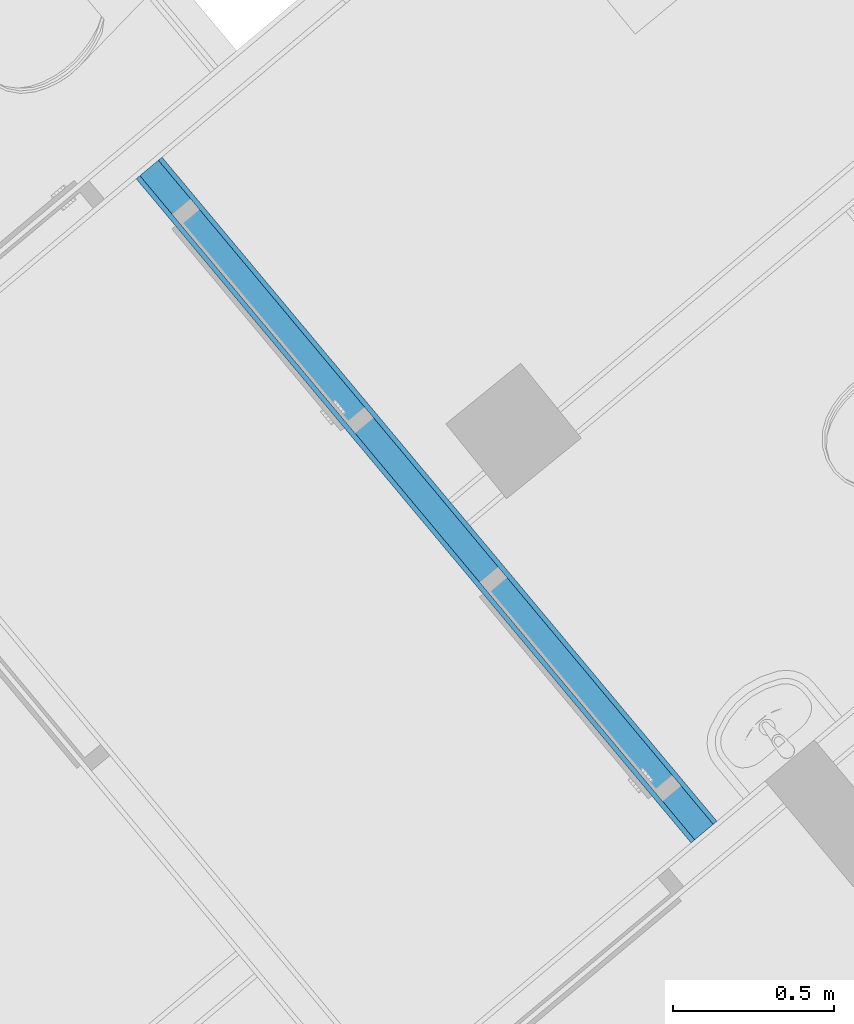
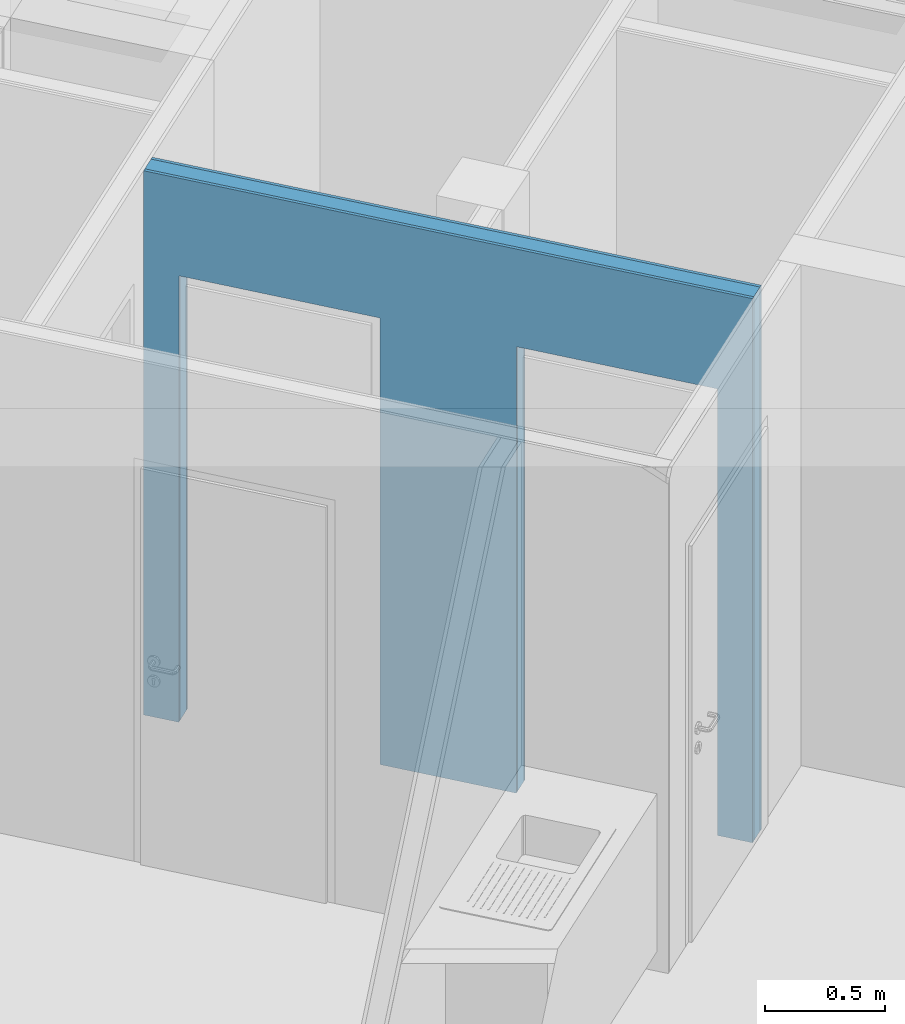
# One storey, part 8 of 50: 3 building element parts, 2 openings, 1 element without a shape of its own.
"""IFC4 building model written with IfcOpenShell, lengths in metres."""

import ifcopenshell
import ifcopenshell.guid

model = None  # the IFC model being written
_history = None  # IfcOwnerHistory: only IFC2X3 demands one
_inside = {}  # id of a spatial element -> (the spatial element, [elements in it])
_under = {}  # id of a project, library or spatial element -> (it, [spatial elements below it])
_declared = {}  # id of a project -> (the project, [libraries it declares])
_typed = {}  # id of a type object -> (the type object, [elements of that type])
_made_of = {}  # id of a material, layer set ... -> (it, [elements and type objects made of it])


def new_model(schema):
    """Start an empty IFC model of exactly this schema.

    Asked for "IFC4X3", IfcOpenShell would pick the latest addendum, in which some entities
    have other attributes; the version numbers below select the first issue.
    IFC2X3 requires an IfcOwnerHistory on every rooted entity: one is made here for all.
    """
    global model, _history
    if schema == "IFC4X3":
        model = ifcopenshell.file(schema_version=(4, 3, 0, 0))
    else:
        model = ifcopenshell.file(schema=schema)
    _inside.clear()
    _under.clear()
    _declared.clear()
    _typed.clear()
    _made_of.clear()
    _history = None
    if model.schema == "IFC2X3":
        org = make("IfcOrganization", Name="unknown")
        user = make(
            "IfcPersonAndOrganization",
            ThePerson=make("IfcPerson", FamilyName="unknown"),
            TheOrganization=org,
        )
        app = make(
            "IfcApplication",
            ApplicationDeveloper=org,
            Version="unknown",
            ApplicationFullName="unknown",
            ApplicationIdentifier="unknown",
        )
        _history = make(
            "IfcOwnerHistory",
            OwningUser=user,
            OwningApplication=app,
            ChangeAction="ADDED",
            CreationDate=0,
        )
    return model


def make(cls, **values):
    """One entity of the class cls with the attributes given. An attribute that is None is left unset."""
    return model.create_entity(
        cls, **{name: value for name, value in values.items() if value is not None}
    )


def entity(cls, *values):
    """Any entity or typed value of the class cls, its attributes in the order of the schema. None: left unset."""
    e = model.create_entity(cls)
    for i, value in enumerate(values):
        if value is not None:
            e[i] = value
    return e


def rooted(cls, **values):
    """An entity with a GlobalId (a new one), such as an element, a storey or a relation."""
    return make(cls, GlobalId=ifcopenshell.guid.new(), OwnerHistory=_history, **values)


def si_unit(unit_type, name, prefix=None):
    """IfcSIUnit, for example si_unit("LENGTHUNIT", "METRE", prefix="MILLI")."""
    return make("IfcSIUnit", UnitType=unit_type, Prefix=prefix, Name=name)


def converted_unit(unit_type, name, factor, base, dimensions=None, offset=None):
    """IfcConversionBasedUnit, such as the inch: factor (a typed value) times the base unit."""
    return make(
        "IfcConversionBasedUnit"
        if offset is None
        else "IfcConversionBasedUnitWithOffset",
        ConversionOffset=offset,
        Dimensions=None
        if dimensions is None
        else entity("IfcDimensionalExponents", *dimensions),
        UnitType=unit_type,
        Name=name,
        ConversionFactor=make(
            "IfcMeasureWithUnit", ValueComponent=factor, UnitComponent=base
        ),
    )


def derived_unit(unit_type, elements):
    """IfcDerivedUnit: a product of units, each with its exponent."""
    return make(
        "IfcDerivedUnit",
        Elements=[
            make("IfcDerivedUnitElement", Unit=unit, Exponent=power)
            for unit, power in elements
        ],
        UnitType=unit_type,
    )


def assignment(units):
    """IfcUnitAssignment: the units of a project."""
    return None if units is None else make("IfcUnitAssignment", Units=units)


def point(xyz):
    """IfcCartesianPoint."""
    return None if xyz is None else make("IfcCartesianPoint", Coordinates=xyz)


def direction(xyz):
    """IfcDirection."""
    return None if xyz is None else make("IfcDirection", DirectionRatios=xyz)


def frame(location, z_axis=None, x_axis=None):
    """IfcAxis2Placement3D, a coordinate frame: its origin and axes. An axis left out is left unset."""
    return make(
        "IfcAxis2Placement3D",
        Location=point(location),
        Axis=direction(z_axis),
        RefDirection=direction(x_axis),
    )


def origin_with_axes():
    """The frame at (0, 0, 0) with the z axis (0, 0, 1) and the x axis (1, 0, 0) written out."""
    return frame((0.0, 0.0, 0.0), z_axis=(0.0, 0.0, 1.0), x_axis=(1.0, 0.0, 0.0))


def place(relative_to, where):
    """IfcLocalPlacement: puts the frame where relative to a parent placement (None: the world)."""
    return make(
        "IfcLocalPlacement", PlacementRelTo=relative_to, RelativePlacement=where
    )


def context(
    kind, dimensions, precision=None, world=None, true_north=None, identifier=None
):
    """IfcGeometricRepresentationContext, for example the 3D "Model" context."""
    return make(
        "IfcGeometricRepresentationContext",
        ContextIdentifier=identifier,
        ContextType=kind,
        CoordinateSpaceDimension=dimensions,
        Precision=precision,
        WorldCoordinateSystem=world,
        TrueNorth=true_north,
    )


def subcontext(parent, identifier, kind, view, scale=None):
    """IfcGeometricRepresentationSubContext, for example "Body" below "Model"."""
    return make(
        "IfcGeometricRepresentationSubContext",
        ContextIdentifier=identifier,
        ContextType=kind,
        ParentContext=parent,
        TargetScale=scale,
        TargetView=view,
    )


def project(units=None, contexts=None):
    """IfcProject with its units and contexts."""
    return rooted(
        "IfcProject",
        Name="project",
        RepresentationContexts=contexts,
        UnitsInContext=assignment(units),
    )


def spatial(cls, under=None, at=None, **own):
    """A site, building, storey or space (cls), placed at a placement, below another one or the project."""
    s = rooted(cls, ObjectPlacement=at, **own)
    if under is not None:
        _under.setdefault(under.id(), (under, []))[1].append(s)
    return s


def point_list(points):
    """IfcCartesianPointList2D or 3D."""
    cls = (
        "IfcCartesianPointList2D" if len(points[0]) == 2 else "IfcCartesianPointList3D"
    )
    return make(cls, CoordList=points)


def polygons(points, faces, closed=None, point_numbers=None):
    """IfcPolygonalFaceSet: a face is its outer loop, then its inner loops; points numbered from 1."""
    made = []
    for loops in faces:
        if len(loops) == 1:
            made.append(make("IfcIndexedPolygonalFace", CoordIndex=loops[0]))
        else:
            made.append(
                make(
                    "IfcIndexedPolygonalFaceWithVoids",
                    CoordIndex=loops[0],
                    InnerCoordIndices=loops[1:],
                )
            )
    return make(
        "IfcPolygonalFaceSet",
        Coordinates=point_list(points),
        Closed=closed,
        Faces=made,
        PnIndex=point_numbers,
    )


def shape(context_of_items, identifier, shape_type, items):
    """IfcShapeRepresentation: the items that make up one representation, for example the "Body"."""
    return make(
        "IfcShapeRepresentation",
        ContextOfItems=context_of_items,
        RepresentationIdentifier=identifier,
        RepresentationType=shape_type,
        Items=items,
    )


def material(Name=None, Category=None):
    """IfcMaterial."""
    return make("IfcMaterial", Name=Name, Category=Category)


def made_of(thing, what):
    """Note that an element or type object is made of a material, layer set ...; save() writes the relation."""
    if what is not None:
        _made_of.setdefault(what.id(), (what, []))[1].append(thing)
    return thing


def type_object(cls, material=None, **own):
    """A type object (cls), such as IfcWallType, which elements share."""
    return made_of(rooted(cls, **own), material)


def element(
    cls,
    number,
    at=None,
    inside=None,
    cuts=None,
    type_object=None,
    material=None,
    context=None,
    identifier="Body",
    shape_type=None,
    held_by="IfcProductDefinitionShape",
    body=None,
    shapes=None,
    **own,
):
    """One element of the class cls, such as IfcWall. Its Tag is "e" and its number.

    at: its placement. inside: the storey or other place that contains it. cuts: it is an
    opening in that element (IfcRelVoidsElement). A single representation is given by context,
    identifier, shape_type and body (its items); several are given by shapes. held_by: the class
    of the entity that holds the representations. save() writes the other relations.
    """
    e = rooted(cls, Tag="e%d" % number, ObjectPlacement=at, **own)
    if body is not None:
        shapes = [shape(context, identifier, shape_type, body)]
    if shapes is not None:
        e.Representation = make(held_by, Representations=shapes)
    if inside is not None:
        _inside.setdefault(inside.id(), (inside, []))[1].append(e)
    if cuts is not None:
        rooted(
            "IfcRelVoidsElement", RelatingBuildingElement=cuts, RelatedOpeningElement=e
        )
    if type_object is not None:
        _typed.setdefault(type_object.id(), (type_object, []))[1].append(e)
    return made_of(e, material)


def aggregate(whole, parts):
    """IfcRelAggregates: a whole, such as a stair, and the parts it consists of."""
    return rooted("IfcRelAggregates", RelatingObject=whole, RelatedObjects=parts)


def save(model, path):
    """Write the relations noted so far, then the file.

    IfcRelAggregates (storeys below a building ...), IfcRelContainedInSpatialStructure (elements
    in a storey), IfcRelDefinesByType, IfcRelAssociatesMaterial and IfcRelDeclares: one each for
    every whole, place, type object, material and project.
    """
    for whole, parts in _under.values():
        aggregate(whole, parts)
    for where, things in _inside.values():
        rooted(
            "IfcRelContainedInSpatialStructure",
            RelatedElements=things,
            RelatingStructure=where,
        )
    for kind, things in _typed.values():
        rooted("IfcRelDefinesByType", RelatedObjects=things, RelatingType=kind)
    for what, things in _made_of.values():
        rooted("IfcRelAssociatesMaterial", RelatedObjects=things, RelatingMaterial=what)
    for by, libraries in _declared.values():
        rooted("IfcRelDeclares", RelatingContext=by, RelatedDefinitions=libraries)
    model.write(path)


model = new_model("IFC4")

# Units and contexts
model_context = context("Model", 3, precision=1e-05, world=origin_with_axes(), true_north=direction((0.0, 1.0)))
body_context = subcontext(model_context, "Body", "Model", "MODEL_VIEW")
ifc_project = project(units=[si_unit("LENGTHUNIT", "METRE"), si_unit("AREAUNIT", "SQUARE_METRE"), si_unit("VOLUMEUNIT", "CUBIC_METRE"), converted_unit("PLANEANGLEUNIT", "DEGREE", entity("IfcPlaneAngleMeasure", 0.0174532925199), si_unit("PLANEANGLEUNIT", "RADIAN"), dimensions=[0, 0, 0, 0, 0, 0, 0]), converted_unit("TIMEUNIT", "Year", entity("IfcTimeMeasure", 31556926.0), si_unit("TIMEUNIT", "SECOND"), dimensions=[0, 0, 1, 0, 0, 0, 0]), si_unit("MASSUNIT", "GRAM", prefix="KILO"), si_unit("THERMODYNAMICTEMPERATUREUNIT", "DEGREE_CELSIUS"), si_unit("LUMINOUSINTENSITYUNIT", "LUMEN"), si_unit("ENERGYUNIT", "JOULE", prefix="MEGA"), derived_unit("THERMALCONDUCTANCEUNIT", [(si_unit("POWERUNIT", "WATT"), 1), (si_unit("LENGTHUNIT", "METRE"), -1), (si_unit("THERMODYNAMICTEMPERATUREUNIT", "KELVIN"), -1)]), derived_unit("SPECIFICHEATCAPACITYUNIT", [(si_unit("ENERGYUNIT", "JOULE"), 1), (si_unit("MASSUNIT", "GRAM", prefix="KILO"), -1), (si_unit("THERMODYNAMICTEMPERATUREUNIT", "KELVIN"), -1)]), derived_unit("MASSDENSITYUNIT", [(si_unit("MASSUNIT", "GRAM", prefix="KILO"), 1), (si_unit("VOLUMEUNIT", "CUBIC_METRE"), -1)])], contexts=[model_context])

# Site, building, storey
site_placement = place(None, frame((-0.00153261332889, -0.00661245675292, 0.0), z_axis=(0.0, 0.0, 1.0), x_axis=(1.0, 0.0, 0.0)))
site = spatial("IfcSite", under=ifc_project, at=site_placement, Name="Site", CompositionType="ELEMENT")
building_placement = place(site_placement, origin_with_axes())
building = spatial("IfcBuilding", under=site, at=building_placement, Name="Building", CompositionType="ELEMENT")
storey_placement = place(building_placement, frame((0.0, 0.0, 2.74), z_axis=(0.0, 0.0, 1.0), x_axis=(1.0, 0.0, 0.0)))
storey = spatial("IfcBuildingStorey", under=building, at=storey_placement, Name="OG1", CompositionType="ELEMENT", Elevation=2.74)

# Wall, openings, building element parts
wall_type = type_object("IfcWallType", Name="IW LB 01 Leichtbautrennwand einfach 10,5 cm 105", PredefinedType="NOTDEFINED")
wall_placement = place(storey_placement, frame((-1.00185448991, 17.6693449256, 0.0), z_axis=(0.0, 0.0, 1.0), x_axis=(-0.641209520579, 0.767365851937, 0.0)))
wall = element("IfcWall", 1, at=wall_placement, inside=storey, type_object=wall_type, Name="Wand-012", PredefinedType="NOTDEFINED")
opening_1_placement = place(wall_placement, frame((0.600343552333, 0.0, 0.22), z_axis=(0.0, 0.0, 1.0), x_axis=(1.0, 0.0, 0.0)))
element("IfcOpeningElement", 2, at=opening_1_placement, cuts=wall, Name="Tür-016", context=body_context, identifier="Reference", shape_type="Tessellation", body=[
    polygons([(-0.445, -1.32697699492, 2.045), (-0.445, -1.32697699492, -0.22), (0.445, -1.32697699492, -0.22), (0.445, -1.32697699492, 2.045), (-0.445, 1.43197699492, 2.045), (-0.445, 1.43197699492, -0.22), (0.445, 1.43197699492, -0.22), (0.445, 1.43197699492, 2.045)], [[[1, 2, 3, 4]], [[5, 6, 2, 1]], [[6, 7, 3, 2]], [[7, 8, 4, 3]], [[8, 5, 1, 4]], [[7, 6, 5, 8]]], closed=True),
])
opening_2_placement = place(wall_placement, frame((2.09376015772, 0.0, 0.22), z_axis=(0.0, 0.0, 1.0), x_axis=(1.0, 0.0, 0.0)))
element("IfcOpeningElement", 3, at=opening_2_placement, cuts=wall, Name="Tür-016", context=body_context, identifier="Reference", shape_type="Tessellation", body=[
    polygons([(-0.445, -1.32697699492, 2.045), (-0.445, -1.32697699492, -0.22), (0.445, -1.32697699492, -0.22), (0.445, -1.32697699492, 2.045), (-0.445, 1.43197699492, 2.045), (-0.445, 1.43197699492, -0.22), (0.445, 1.43197699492, -0.22), (0.445, 1.43197699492, 2.045)], [[[1, 2, 3, 4]], [[5, 6, 2, 1]], [[6, 7, 3, 2]], [[7, 8, 4, 3]], [[8, 5, 1, 4]], [[7, 6, 5, 8]]], closed=True),
])
ifc_material_1 = material(Name="Gipskarton")
building_element_part_1_placement = place(wall_placement, origin_with_axes())
building_element_part_1 = element("IfcBuildingElementPart", 4, at=building_element_part_1_placement, material=ifc_material_1, Name="Gipskarton", PredefinedType="NOTDEFINED", context=body_context, shape_type="Tessellation", body=[
    polygons([(2.53876015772, 0.09, 2.265), (2.53876015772, 0.09, 0.22), (2.53876015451, 0.09, 0.0), (2.69484355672, 0.09, 0.0), (2.69484355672, 0.09, 2.76), (0.0, 0.09, 2.76), (0.0, 0.09, 0.0), (0.155343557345, 0.09, 0.0), (0.155343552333, 0.09, 0.22), (0.155343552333, 0.09, 2.265), (1.04534355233, 0.09, 2.265), (1.04534355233, 0.09, 0.22), (1.04534353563, 0.09, 0.0), (1.64876015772, 0.09, 0.0), (1.64876015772, 0.09, 0.22), (1.64876015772, 0.09, 2.265), (2.53876015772, 0.105, 2.265), (2.53876015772, 0.105, 0.22), (2.53876015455, 0.105, 0.0), (2.69484355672, 0.105, 0.0), (2.69484355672, 0.105, 2.76), (0.0, 0.105, 2.76), (0.0, 0.105, 0.0), (0.155343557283, 0.105, 0.0), (0.155343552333, 0.105, 0.22), (0.155343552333, 0.105, 2.265), (1.04534355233, 0.105, 2.265), (1.04534355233, 0.105, 0.22), (1.04534353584, 0.105, 0.0), (1.64876015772, 0.105, 0.0), (1.64876015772, 0.105, 0.22), (1.64876015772, 0.105, 2.265)], [[[1, 2, 3, 4, 5, 6, 7, 8, 9, 10, 11, 12, 13, 14, 15, 16]], [[2, 1, 17, 18]], [[2, 18, 19, 3]], [[20, 4, 3, 19]], [[21, 5, 4, 20]], [[21, 22, 6, 5]], [[7, 6, 22, 23]], [[7, 23, 24, 8]], [[9, 8, 24, 25]], [[9, 25, 26, 10]], [[10, 26, 27, 11]], [[11, 27, 28, 12]], [[28, 29, 13, 12]], [[13, 29, 30, 14]], [[31, 15, 14, 30]], [[16, 15, 31, 32]], [[1, 16, 32, 17]], [[32, 31, 30, 29, 28, 27, 26, 25, 24, 23, 22, 21, 20, 19, 18, 17]]], closed=True),
])
ifc_material_2 = material(Name="Mineralwolle weich")
building_element_part_2_placement = place(wall_placement, origin_with_axes())
building_element_part_2 = element("IfcBuildingElementPart", 5, at=building_element_part_2_placement, material=ifc_material_2, Name="Mineralwolle weich", PredefinedType="NOTDEFINED", context=body_context, shape_type="Tessellation", body=[
    polygons([(2.53876015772, 0.015, 2.265), (2.53876015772, 0.015, 0.22), (2.53876015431, 0.015, 0.0), (2.69484355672, 0.015, 0.0), (2.69484355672, 0.015, 2.76), (0.0, 0.015, 2.76), (0.0, 0.015, 0.0), (0.155343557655, 0.015, 0.0), (0.155343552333, 0.015, 0.22), (0.155343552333, 0.015, 2.265), (1.04534355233, 0.015, 2.265), (1.04534355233, 0.015, 0.22), (1.0453435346, 0.015, 0.0), (1.64876015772, 0.015, 0.0), (1.64876015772, 0.015, 0.22), (1.64876015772, 0.015, 2.265), (2.53876015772, 0.09, 2.265), (2.53876015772, 0.09, 0.22), (2.53876015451, 0.09, 0.0), (2.69484355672, 0.09, 0.0), (2.69484355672, 0.09, 2.76), (0.0, 0.09, 2.76), (0.0, 0.09, 0.0), (0.155343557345, 0.09, 0.0), (0.155343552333, 0.09, 0.22), (0.155343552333, 0.09, 2.265), (1.04534355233, 0.09, 2.265), (1.04534355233, 0.09, 0.22), (1.04534353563, 0.09, 0.0), (1.64876015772, 0.09, 0.0), (1.64876015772, 0.09, 0.22), (1.64876015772, 0.09, 2.265)], [[[1, 2, 3, 4, 5, 6, 7, 8, 9, 10, 11, 12, 13, 14, 15, 16]], [[2, 1, 17, 18]], [[2, 18, 19, 3]], [[20, 4, 3, 19]], [[21, 5, 4, 20]], [[21, 22, 6, 5]], [[7, 6, 22, 23]], [[7, 23, 24, 8]], [[9, 8, 24, 25]], [[9, 25, 26, 10]], [[10, 26, 27, 11]], [[11, 27, 28, 12]], [[28, 29, 13, 12]], [[13, 29, 30, 14]], [[31, 15, 14, 30]], [[16, 15, 31, 32]], [[1, 16, 32, 17]], [[32, 31, 30, 29, 28, 27, 26, 25, 24, 23, 22, 21, 20, 19, 18, 17]]], closed=True),
])
building_element_part_3_placement = place(wall_placement, origin_with_axes())
building_element_part_3 = element("IfcBuildingElementPart", 6, at=building_element_part_3_placement, material=ifc_material_1, Name="Gipskarton", PredefinedType="NOTDEFINED", context=body_context, shape_type="Tessellation", body=[
    polygons([(2.53876015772, 1.70691709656e-08, 2.265), (2.53876015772, 1.87500486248e-08, 0.22), (2.53876015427, 1.87500468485e-08, 0.0), (2.69484355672, 0.0, 0.0), (2.69484355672, 0.0, 2.76), (0.0, 0.0, 2.76), (0.0, 0.0, 0.0), (0.155343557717, 1.84442470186e-08, 0.0), (0.155343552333, 1.84442470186e-08, 0.22), (0.155343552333, 1.70691709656e-08, 2.265), (1.04534355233, 1.70691727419e-08, 2.265), (1.04534355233, -1.23921441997e-08, 0.22), (1.04534353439, -1.23921424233e-08, 0.0), (1.64876015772, 1.70691727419e-08, 0.0), (1.64876015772, 1.70691709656e-08, 0.22), (1.64876015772, 1.70691709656e-08, 2.265), (2.53876015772, 0.015, 2.265), (2.53876015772, 0.015, 0.22), (2.53876015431, 0.015, 0.0), (2.69484355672, 0.015, 0.0), (2.69484355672, 0.015, 2.76), (0.0, 0.015, 2.76), (0.0, 0.015, 0.0), (0.155343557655, 0.015, 0.0), (0.155343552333, 0.015, 0.22), (0.155343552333, 0.015, 2.265), (1.04534355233, 0.015, 2.265), (1.04534355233, 0.015, 0.22), (1.0453435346, 0.015, 0.0), (1.64876015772, 0.015, 0.0), (1.64876015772, 0.015, 0.22), (1.64876015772, 0.015, 2.265)], [[[1, 2, 3, 4, 5, 6, 7, 8, 9, 10, 11, 12, 13, 14, 15, 16]], [[2, 1, 17, 18]], [[2, 18, 19, 3]], [[20, 4, 3, 19]], [[21, 5, 4, 20]], [[21, 22, 6, 5]], [[7, 6, 22, 23]], [[7, 23, 24, 8]], [[9, 8, 24, 25]], [[9, 25, 26, 10]], [[10, 26, 27, 11]], [[11, 27, 28, 12]], [[28, 29, 13, 12]], [[13, 29, 30, 14]], [[31, 15, 14, 30]], [[16, 15, 31, 32]], [[1, 16, 32, 17]], [[32, 31, 30, 29, 28, 27, 26, 25, 24, 23, 22, 21, 20, 19, 18, 17]]], closed=True),
])
aggregate(wall, [building_element_part_1, building_element_part_2, building_element_part_3])

save(model, "model.ifc")
